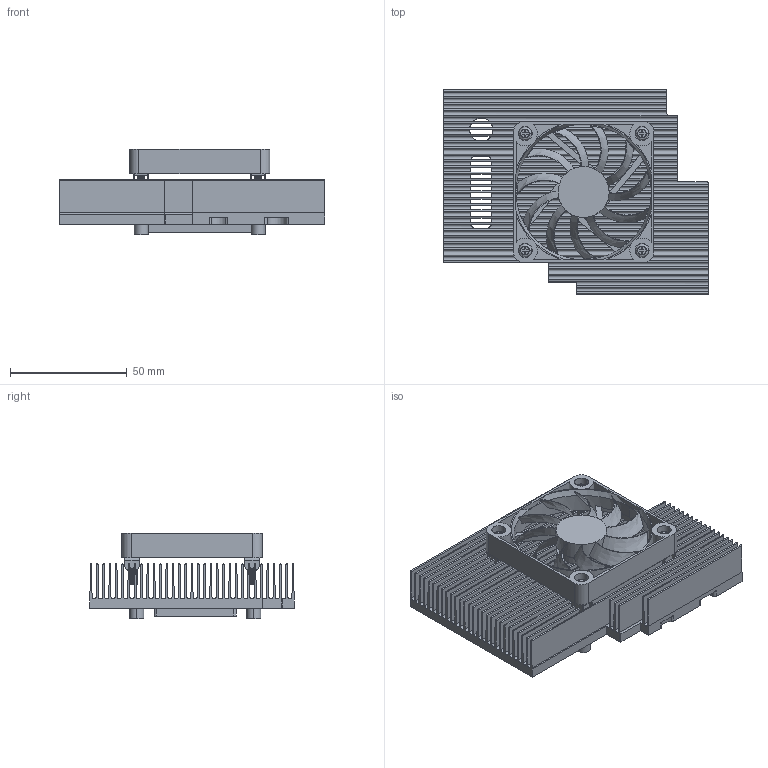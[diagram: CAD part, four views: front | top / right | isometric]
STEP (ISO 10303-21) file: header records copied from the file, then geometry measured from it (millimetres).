
FILE_DESCRIPTION((''),'2;1');
FILE_NAME('E1961121280000R_ASM','2023-02-02T09:42:43',('kobe_chang'),(''),'CREO PARAMETRIC BY PTC INC, 2018300','CREO PARAMETRIC BY PTC INC, 2018300','');
FILE_SCHEMA(('CONFIG_CONTROL_DESIGN','GEOMETRIC_VALIDATION_PROPERTIES_MIM'));
Length unit declared in the file: millimetre
Products named in the file (7): EMX-TGLP_HEATSINK; CU; E1961211150025R_ASM; FD126010HB; E0902-03A_CLIP; SCREW_3_18; E1961121280000R_ASM
Assembly tree (12 placements, depth 3):
  E1961121280000R_ASM
    E1961211150025R_ASM
      EMX-TGLP_HEATSINK
      CU
    FD126010HB
    E0902-03A_CLIP  x4
    SCREW_3_18  x4
Bounding box: 113.5 x 87.3 x 36.6 mm (x, y, z)
Volume: 88293.1 mm3; surface area: 134427.1 mm2
Topology: 12 solids, 12 shells, 1100 faces, 3111 edges, 2022 vertices
Faces by surface type: cylinder 558, plane 365, bspline 135, cone 26, torus 16
Entity records: 29809 total; most frequent: CARTESIAN_POINT 11613, ORIENTED_EDGE 3392, DIRECTION 2892, EDGE_CURVE 1696, VERTEX_POINT 1121, AXIS2_PLACEMENT_3D 1010, VECTOR 872, LINE 872
